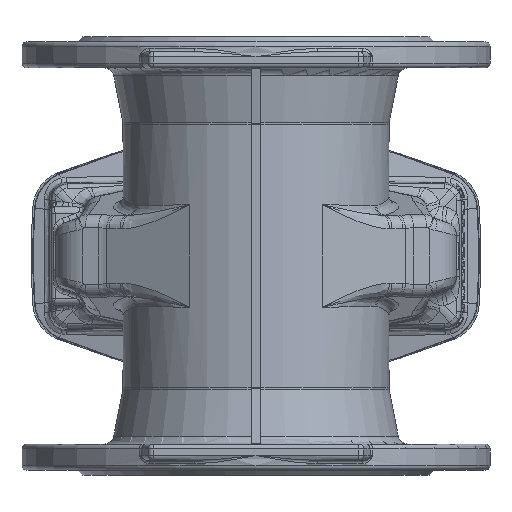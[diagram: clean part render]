
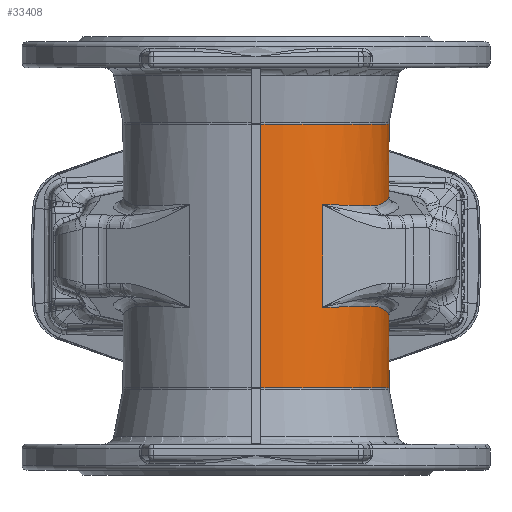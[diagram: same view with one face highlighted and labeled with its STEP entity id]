
A CAD part, front view. The second image highlights one B-rep face of the part: STEP entity #33408.
In plain terms, the highlighted cylindrical face has radius 81 mm (diameter 162 mm), a partial arc.
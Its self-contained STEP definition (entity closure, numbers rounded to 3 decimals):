
#889 =( BOUNDED_CURVE ( )  B_SPLINE_CURVE ( 3, ( #35542, #35551, #35556, #35557 ),
 .UNSPECIFIED., .F., .F. ) 
 B_SPLINE_CURVE_WITH_KNOTS ( ( 4, 4 ),
 ( 3.604, 4.189 ),
 .UNSPECIFIED. ) 
 CURVE ( )  GEOMETRIC_REPRESENTATION_ITEM ( )  RATIONAL_B_SPLINE_CURVE ( ( 1., 0.972, 0.972, 1. ) ) 
 REPRESENTATION_ITEM ( '' )  );
#2305 =( BOUNDED_CURVE ( )  B_SPLINE_CURVE ( 3, ( #18717, #18718, #18725, #18726 ),
 .UNSPECIFIED., .F., .T. ) 
 B_SPLINE_CURVE_WITH_KNOTS ( ( 4, 4 ),
 ( 0.162, 2.133 ),
 .UNSPECIFIED. ) 
 CURVE ( )  GEOMETRIC_REPRESENTATION_ITEM ( )  RATIONAL_B_SPLINE_CURVE ( ( 1., 0.702, 0.702, 1. ) ) 
 REPRESENTATION_ITEM ( '' )  );
#2401 = B_SPLINE_CURVE_WITH_KNOTS ( 'NONE', 3,
 ( #15376, #15388, #15403, #15405 ),
 .UNSPECIFIED., .F., .F.,
 ( 4, 4 ),
 ( 0., 0.002 ),
 .UNSPECIFIED. ) ;
#2451 =( BOUNDED_CURVE ( )  B_SPLINE_CURVE ( 3, ( #6160, #6159, #6167, #6168 ),
 .UNSPECIFIED., .F., .T. ) 
 B_SPLINE_CURVE_WITH_KNOTS ( ( 4, 4 ),
 ( 0.162, 2.133 ),
 .UNSPECIFIED. ) 
 CURVE ( )  GEOMETRIC_REPRESENTATION_ITEM ( )  RATIONAL_B_SPLINE_CURVE ( ( 1., 0.702, 0.702, 1. ) ) 
 REPRESENTATION_ITEM ( '' )  );
#2503 = B_SPLINE_CURVE_WITH_KNOTS ( 'NONE', 3,
 ( #13552, #13553, #13557, #13558 ),
 .UNSPECIFIED., .F., .F.,
 ( 4, 4 ),
 ( 0., 0.002 ),
 .UNSPECIFIED. ) ;
#2549 =( BOUNDED_CURVE ( )  B_SPLINE_CURVE ( 3, ( #13574, #13573, #13597, #13598 ),
 .UNSPECIFIED., .F., .T. ) 
 B_SPLINE_CURVE_WITH_KNOTS ( ( 4, 4 ),
 ( 3.604, 4.189 ),
 .UNSPECIFIED. ) 
 CURVE ( )  GEOMETRIC_REPRESENTATION_ITEM ( )  RATIONAL_B_SPLINE_CURVE ( ( 1., 0.972, 0.972, 1. ) ) 
 REPRESENTATION_ITEM ( '' )  );
#5849 = CARTESIAN_POINT ( 'NONE',  ( 3., 80.944, 0. ) ) ;
#5852 = DIRECTION ( 'NONE',  ( 0., 0., 1. ) ) ;
#5964 = CARTESIAN_POINT ( 'NONE',  ( 0., 0., -80.205 ) ) ;
#5966 = DIRECTION ( 'NONE',  ( 0., 0., 1. ) ) ;
#5968 = DIRECTION ( 'NONE',  ( -1., 0., 0. ) ) ;
#6012 = CARTESIAN_POINT ( 'NONE',  ( 0., 0., 80.205 ) ) ;
#6013 = DIRECTION ( 'NONE',  ( 0., 0., 1. ) ) ;
#6014 = DIRECTION ( 'NONE',  ( -1., 0., 0. ) ) ;
#6159 = CARTESIAN_POINT ( 'NONE',  ( 67.115, 78.568, -47.919 ) ) ;
#6160 = CARTESIAN_POINT ( 'NONE',  ( 3., 80.944, -49.492 ) ) ;
#6167 = CARTESIAN_POINT ( 'NONE',  ( 100.551, 23.81, -39.02 ) ) ;
#6168 = CARTESIAN_POINT ( 'NONE',  ( 73.375, -34.309, -30.762 ) ) ;
#6169 = CARTESIAN_POINT ( 'NONE',  ( 3., -80.944, 0. ) ) ;
#6170 = DIRECTION ( 'NONE',  ( 0., 0., 1. ) ) ;
#7535 = AXIS2_PLACEMENT_3D ( 'NONE', #28747, #28735, #28734 ) ;
#7825 = AXIS2_PLACEMENT_3D ( 'NONE', #6012, #6013, #6014 ) ;
#7831 = AXIS2_PLACEMENT_3D ( 'NONE', #5964, #5966, #5968 ) ;
#8290 = CARTESIAN_POINT ( 'NONE',  ( 3., 80.944, -80.205 ) ) ;
#8291 = CARTESIAN_POINT ( 'NONE',  ( 3., 80.944, -49.492 ) ) ;
#8292 = CARTESIAN_POINT ( 'NONE',  ( 40.5, -70.148, 31.242 ) ) ;
#8297 = CARTESIAN_POINT ( 'NONE',  ( 73.375, -34.309, 30.762 ) ) ;
#8358 = CARTESIAN_POINT ( 'NONE',  ( 3., -80.944, -80.205 ) ) ;
#9786 = LINE ( 'NONE', #13564, #9801 ) ;
#9801 = VECTOR ( 'NONE', #13572, 1000. ) ;
#10866 = FACE_OUTER_BOUND ( 'NONE', #15498, .T. ) ;
#10868 = CYLINDRICAL_SURFACE ( 'NONE', #7535, 81. ) ;
#10897 = VERTEX_POINT ( 'NONE', #20179 ) ;
#10901 = VERTEX_POINT ( 'NONE', #20177 ) ;
#10912 = VERTEX_POINT ( 'NONE', #20170 ) ;
#10914 = VERTEX_POINT ( 'NONE', #20169 ) ;
#10916 = VERTEX_POINT ( 'NONE', #20168 ) ;
#10925 = VERTEX_POINT ( 'NONE', #20163 ) ;
#10965 = VERTEX_POINT ( 'NONE', #20141 ) ;
#13552 = CARTESIAN_POINT ( 'NONE',  ( 73.375, -34.309, 30.762 ) ) ;
#13553 = CARTESIAN_POINT ( 'NONE',  ( 73.092, -34.915, 30.675 ) ) ;
#13557 = CARTESIAN_POINT ( 'NONE',  ( 72.8, -35.52, 30.636 ) ) ;
#13558 = CARTESIAN_POINT ( 'NONE',  ( 72.499, -36.124, 30.642 ) ) ;
#13564 = CARTESIAN_POINT ( 'NONE',  ( 40.5, -70.148, 133.5 ) ) ;
#13572 = DIRECTION ( 'NONE',  ( 0., 0., -1. ) ) ;
#13573 = CARTESIAN_POINT ( 'NONE',  ( 65.353, -50.465, 30.776 ) ) ;
#13574 = CARTESIAN_POINT ( 'NONE',  ( 72.499, -36.124, 30.642 ) ) ;
#13597 = CARTESIAN_POINT ( 'NONE',  ( 54.376, -62.137, 30.981 ) ) ;
#13598 = CARTESIAN_POINT ( 'NONE',  ( 40.5, -70.148, 31.242 ) ) ;
#14835 = VERTEX_POINT ( 'NONE', #8297 ) ;
#14843 = VERTEX_POINT ( 'NONE', #8292 ) ;
#14845 = VERTEX_POINT ( 'NONE', #8291 ) ;
#14847 = VERTEX_POINT ( 'NONE', #8290 ) ;
#14854 = VERTEX_POINT ( 'NONE', #8358 ) ;
#15376 = CARTESIAN_POINT ( 'NONE',  ( 73.375, -34.309, -30.762 ) ) ;
#15388 = CARTESIAN_POINT ( 'NONE',  ( 73.092, -34.915, -30.675 ) ) ;
#15403 = CARTESIAN_POINT ( 'NONE',  ( 72.8, -35.52, -30.636 ) ) ;
#15405 = CARTESIAN_POINT ( 'NONE',  ( 72.499, -36.124, -30.642 ) ) ;
#15498 = EDGE_LOOP ( 'NONE', ( #31145, #30906, #27868, #31132, #30532, #30728, #31064, #31133, #30680, #30959, #31204, #30640 ) ) ;
#18717 = CARTESIAN_POINT ( 'NONE',  ( 3., 80.944, 49.492 ) ) ;
#18718 = CARTESIAN_POINT ( 'NONE',  ( 67.115, 78.568, 47.919 ) ) ;
#18725 = CARTESIAN_POINT ( 'NONE',  ( 100.551, 23.81, 39.02 ) ) ;
#18726 = CARTESIAN_POINT ( 'NONE',  ( 73.375, -34.309, 30.762 ) ) ;
#20141 = CARTESIAN_POINT ( 'NONE',  ( 3., -80.944, 80.205 ) ) ;
#20163 = CARTESIAN_POINT ( 'NONE',  ( 3., 80.944, 49.492 ) ) ;
#20168 = CARTESIAN_POINT ( 'NONE',  ( 73.375, -34.309, -30.762 ) ) ;
#20169 = CARTESIAN_POINT ( 'NONE',  ( 72.499, -36.124, -30.642 ) ) ;
#20170 = CARTESIAN_POINT ( 'NONE',  ( 40.5, -70.148, -31.242 ) ) ;
#20177 = CARTESIAN_POINT ( 'NONE',  ( 3., 80.944, 80.205 ) ) ;
#20179 = CARTESIAN_POINT ( 'NONE',  ( 72.499, -36.124, 30.642 ) ) ;
#24957 = EDGE_CURVE ( 'NONE', #10925, #14835, #2305, .T. ) ;
#25189 = EDGE_CURVE ( 'NONE', #10916, #10914, #2401, .T. ) ;
#25259 = EDGE_CURVE ( 'NONE', #10925, #10901, #29819, .T. ) ;
#25275 = EDGE_CURVE ( 'NONE', #14854, #14847, #29902, .T. ) ;
#25283 = EDGE_CURVE ( 'NONE', #10965, #10901, #29804, .T. ) ;
#25318 = EDGE_CURVE ( 'NONE', #14845, #10916, #2451, .T. ) ;
#25319 = EDGE_CURVE ( 'NONE', #14854, #10965, #29871, .T. ) ;
#25697 = EDGE_CURVE ( 'NONE', #14845, #14847, #31462, .T. ) ;
#25913 = EDGE_CURVE ( 'NONE', #14835, #10897, #2503, .T. ) ;
#25917 = EDGE_CURVE ( 'NONE', #14843, #10912, #9786, .T. ) ;
#25920 = EDGE_CURVE ( 'NONE', #10897, #14843, #2549, .T. ) ;
#26095 = EDGE_CURVE ( 'NONE', #10914, #10912, #889, .T. ) ;
#27868 = ORIENTED_EDGE ( 'NONE', *, *, #25697, .F. ) ;
#28734 = DIRECTION ( 'NONE',  ( -1., 0., 0. ) ) ;
#28735 = DIRECTION ( 'NONE',  ( 0., 0., 1. ) ) ;
#28747 = CARTESIAN_POINT ( 'NONE',  ( 0., 0., 0. ) ) ;
#29747 = VECTOR ( 'NONE', #6170, 1000. ) ;
#29804 = CIRCLE ( 'NONE', #7825, 81. ) ;
#29819 = LINE ( 'NONE', #5849, #29843 ) ;
#29843 = VECTOR ( 'NONE', #5852, 1000. ) ;
#29871 = LINE ( 'NONE', #6169, #29747 ) ;
#29902 = CIRCLE ( 'NONE', #7831, 81. ) ;
#30532 = ORIENTED_EDGE ( 'NONE', *, *, #25189, .T. ) ;
#30640 = ORIENTED_EDGE ( 'NONE', *, *, #25283, .F. ) ;
#30680 = ORIENTED_EDGE ( 'NONE', *, *, #25913, .F. ) ;
#30728 = ORIENTED_EDGE ( 'NONE', *, *, #26095, .T. ) ;
#30906 = ORIENTED_EDGE ( 'NONE', *, *, #25275, .T. ) ;
#30959 = ORIENTED_EDGE ( 'NONE', *, *, #24957, .F. ) ;
#31064 = ORIENTED_EDGE ( 'NONE', *, *, #25917, .F. ) ;
#31132 = ORIENTED_EDGE ( 'NONE', *, *, #25318, .T. ) ;
#31133 = ORIENTED_EDGE ( 'NONE', *, *, #25920, .F. ) ;
#31145 = ORIENTED_EDGE ( 'NONE', *, *, #25319, .F. ) ;
#31204 = ORIENTED_EDGE ( 'NONE', *, *, #25259, .T. ) ;
#31458 = VECTOR ( 'NONE', #36943, 1000. ) ;
#31462 = LINE ( 'NONE', #36951, #31458 ) ;
#33408 = ADVANCED_FACE ( 'NONE', ( #10866 ), #10868, .T. ) ;
#35542 = CARTESIAN_POINT ( 'NONE',  ( 72.499, -36.124, -30.642 ) ) ;
#35551 = CARTESIAN_POINT ( 'NONE',  ( 65.353, -50.465, -30.776 ) ) ;
#35556 = CARTESIAN_POINT ( 'NONE',  ( 54.376, -62.137, -30.981 ) ) ;
#35557 = CARTESIAN_POINT ( 'NONE',  ( 40.5, -70.148, -31.242 ) ) ;
#36943 = DIRECTION ( 'NONE',  ( 0., 0., -1. ) ) ;
#36951 = CARTESIAN_POINT ( 'NONE',  ( 3., 80.944, 0. ) ) ;
